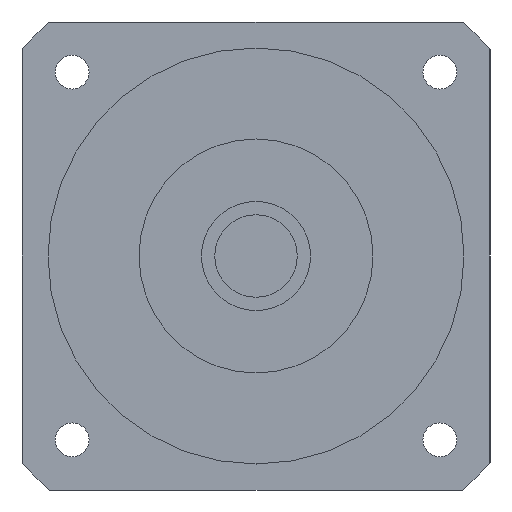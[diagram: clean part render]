
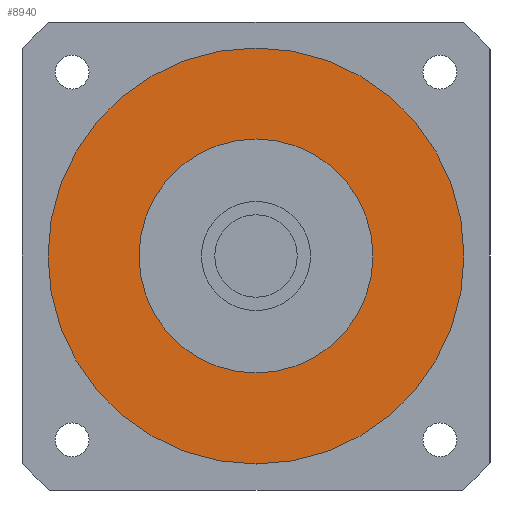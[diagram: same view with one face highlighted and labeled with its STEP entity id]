
A CAD part, left-side view. The second image highlights one B-rep face of the part: STEP entity #8940.
In plain terms, the highlighted planar face has unit normal (-1, 0, 0) as drawn and (0, 0, -1) by its records, which use the part's own axes.
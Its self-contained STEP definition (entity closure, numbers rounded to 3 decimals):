
#8550=CARTESIAN_POINT('',(0.,0.,
-54.2));
#8560=DIRECTION('',(0.,0.,1.));
#8570=DIRECTION('',(0.,1.,0.));
#8580=AXIS2_PLACEMENT_3D('',#8550,#8560,#8570);
#8590=PLANE('',#8580);
#8600=CARTESIAN_POINT('',(0.,0.,
-54.2));
#8610=DIRECTION('',(0.,0.,1.));
#8620=DIRECTION('',(0.,1.,0.));
#8630=AXIS2_PLACEMENT_3D('',#8600,#8610,#8620);
#8640=CIRCLE('',#8630,22.5);
#8650=CARTESIAN_POINT('',(0.,22.5,-54.2));
#8660=VERTEX_POINT('',#8650);
#8670=CARTESIAN_POINT('',(0.,-22.5,-54.2));
#8680=VERTEX_POINT('',#8670);
#8690=EDGE_CURVE('',#8660,#8680,#8640,.T.);
#8700=ORIENTED_EDGE('',*,*,#8690,.T.);
#8710=EDGE_CURVE('',#8680,#8660,#8640,.T.);
#8720=ORIENTED_EDGE('',*,*,#8710,.T.);
#8730=EDGE_LOOP('',(#8720,#8700));
#8740=FACE_BOUND('',#8730,.T.);
#8750=CARTESIAN_POINT('',(0.,0.,
-54.2));
#8760=DIRECTION('',(0.,0.,1.));
#8770=DIRECTION('',(1.,0.,0.));
#8780=AXIS2_PLACEMENT_3D('',#8750,#8760,#8770);
#8790=CIRCLE('',#8780,40.);
#8800=CARTESIAN_POINT('',(40.,0.,-54.2));
#8810=VERTEX_POINT('',#8800);
#8820=CARTESIAN_POINT('',(0.,40.,-54.2));
#8830=VERTEX_POINT('',#8820);
#8840=EDGE_CURVE('',#8810,#8830,#8790,.T.);
#8850=ORIENTED_EDGE('',*,*,#8840,.F.);
#8860=CARTESIAN_POINT('',(0.,-40.,-54.2));
#8870=VERTEX_POINT('',#8860);
#8880=EDGE_CURVE('',#8830,#8870,#8790,.T.);
#8890=ORIENTED_EDGE('',*,*,#8880,.F.);
#8900=EDGE_CURVE('',#8870,#8810,#8790,.T.);
#8910=ORIENTED_EDGE('',*,*,#8900,.F.);
#8920=EDGE_LOOP('',(#8910,#8890,#8850));
#8930=FACE_OUTER_BOUND('',#8920,.T.);
#8940=ADVANCED_FACE('',(#8740,#8930),#8590,.F.);
